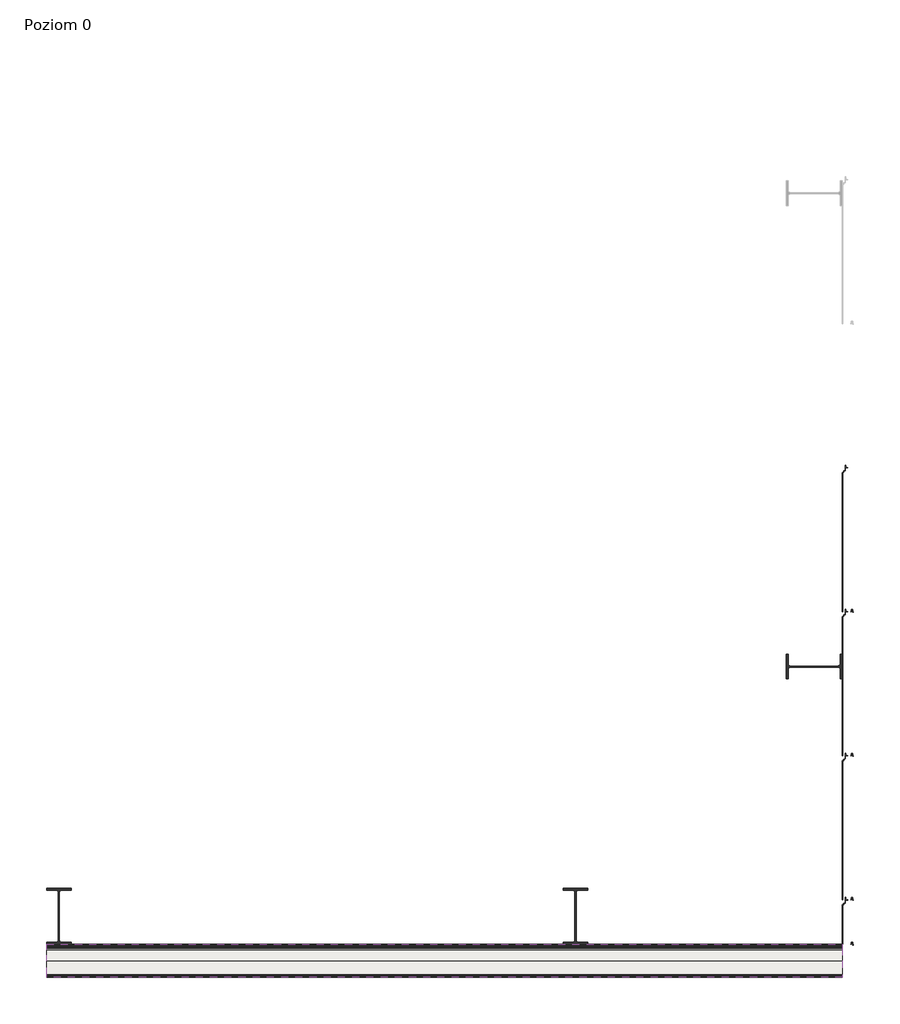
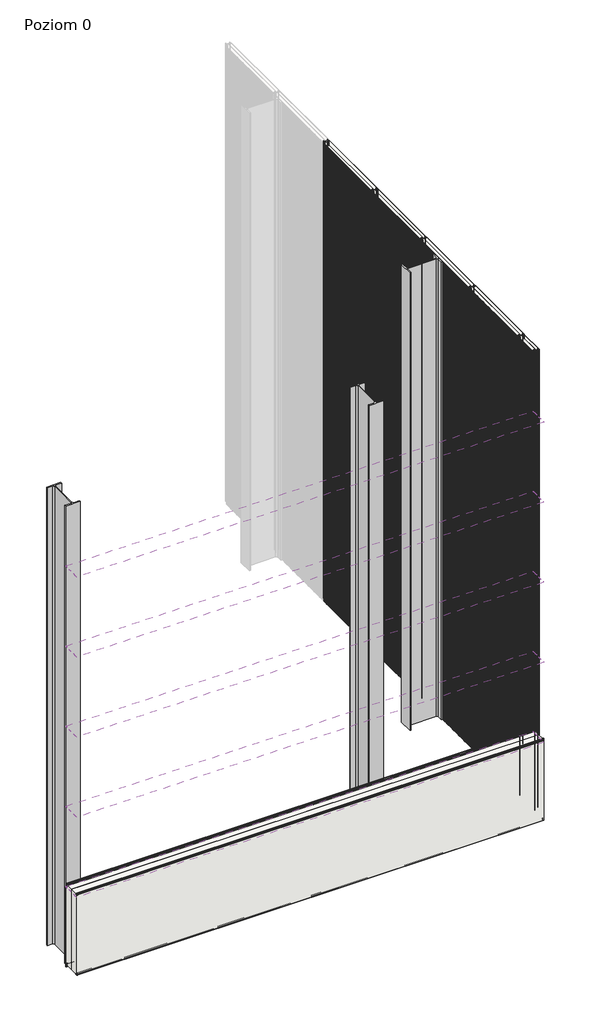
# One storey, part 1 of 2: 11 coverings, 3 columns.
"""IFC4 building model written with IfcOpenShell, lengths in millimetres."""

from ifc_helpers import new_model, si_unit, point, frame, frame_2d, origin, origin_with_axes, place, context, project, spatial, polyline, circle_curve, trimmed, segment, composite_curve, outline, extrude, transform, mapped, element, save
from ifc_brep_helpers import plane_surface, cylinder_surface, revolved_surface, advanced_brep
from components import standard1_standard_8d04f7a0, covering_1de69429, covering_f1df908d, covering_b233c857, covering_faf521a6

model = new_model("IFC4")

# Units and contexts
model_context = context("Model", 3, world=origin())
ifc_project = project(units=[si_unit("LENGTHUNIT", "METRE", prefix="MILLI")], contexts=[model_context])

# Site, building, storey
site = spatial("IfcSite", under=ifc_project)
building = spatial("IfcBuilding", under=site)
storey = spatial("IfcBuildingStorey", under=building, Name="Poziom 0", Elevation=0.0)

# Columns
placement = place(None, origin())
standard1_standard_shape = standard1_standard_8d04f7a0(model_context)
element("IfcColumn", 1, ObjectType="Standard1 : Standard", at=placement, inside=storey, context=model_context, shape_type="MappedRepresentation", body=[
    mapped(standard1_standard_shape, transform((-652.7962443, -7493.6992704, 0.0), x_axis=(0.0, 1.0, 0.0), y_axis=(-1.0, 0.0, 0.0), z_axis=(0.0, 0.0, 1.0))),
])
element("IfcColumn", 2, ObjectType="Standard1 : Standard", at=placement, inside=storey, context=model_context, shape_type="MappedRepresentation", body=[
    mapped(standard1_standard_shape, transform((-6157.3962443, -9313.0059697, 0.0), x_axis=(1.0, 0.0, 0.0), y_axis=(0.0, 1.0, 0.0), z_axis=(0.0, 0.0, 1.0))),
])
element("IfcColumn", 3, ObjectType="Standard1 : Standard", at=placement, inside=storey, context=model_context, shape_type="MappedRepresentation", body=[
    mapped(standard1_standard_shape, transform((-2391.8962443, -9313.0059697, 0.0), x_axis=(1.0, 0.0, 0.0), y_axis=(0.0, 1.0, 0.0), z_axis=(0.0, 0.0, 1.0))),
])

# Coverings
element("IfcCovering", 4, ObjectType="Wall sandwich panel SPW-H CORE WOOL (single sheet) : -", at=placement, inside=storey, context=model_context, shape_type="SolidModel", body=[
    advanced_brep(
    [(-367.8962443, -6043.6992704, 0.0), (-367.8962443, -6045.316623, 0.0), (-370.9458145, -6045.4231216, 0.0), (-371.4485065, -6031.0286267, 0.0), (-381.4386085, -6030.9414619, 0.0), (-382.0051251, -6041.7516046, 0.0), (-383.0037548, -6042.6992704, 0.0), (-406.8962443, -6042.6992704, 0.0), (-406.8962443, -4994.6992704, 0.0), (-382.3124747, -4994.6992704, 0.0), (-378.8172713, -4991.3824462, 0.0), (-378.256236, -4980.6772545, 0.0), (-374.2601953, -4980.7121274, 0.0), (-373.6947214, -4996.9051812, 0.0), (-371.1962443, -4999.3179325, 0.0), (-369.3962443, -4999.3179325, 0.0), (-367.8962443, -5000.8179325, 0.0), (-367.8962443, -5001.8361418, 0.0), (-367.8962443, -6045.316623, 6000.0), (-367.8962443, -6043.6992704, 6000.0), (-367.8962443, -5001.8361418, 6000.0), (-367.8962443, -5000.8179325, 6000.0), (-369.3962443, -4999.3179325, 6000.0), (-371.1962443, -4999.3179325, 6000.0), (-373.6947214, -4996.9051812, 6000.0), (-374.2601953, -4980.7121274, 6000.0), (-378.256236, -4980.6772545, 6000.0), (-378.8172713, -4991.3824462, 6000.0), (-382.3124747, -4994.6992704, 6000.0), (-406.8962443, -4994.6992704, 6000.0), (-406.8962443, -6042.6992704, 6000.0), (-383.0037548, -6042.6992704, 6000.0), (-382.0051251, -6041.7516046, 6000.0), (-381.4386085, -6030.9414619, 6000.0), (-371.4485065, -6031.0286267, 6000.0), (-370.9458145, -6045.4231216, 6000.0)],
    [
        (0, 1),
        (1, 2, circle_curve(frame((-369.422889, -6045.316623, 0.0), z_axis=(0.0, 0.0, -1.0), x_axis=(0.0, -1.0, 0.0)), 1.5266447)),
        (2, 3),
        (3, 4, circle_curve(frame((-376.4454604, -6031.2031329, 0.0), z_axis=(0.0, 0.0, 1.0), x_axis=(0.0, -1.0, 0.0)), 5.0)),
        (4, 5),
        (5, 6, circle_curve(frame((-383.0037548, -6041.6992704, 0.0), z_axis=(0.0, 0.0, -1.0), x_axis=(0.0, -1.0, 0.0)), 1.0)),
        (6, 7),
        (7, 8),
        (8, 9),
        (9, 10, circle_curve(frame((-382.3124747, -4991.1992704, 0.0), z_axis=(0.0, 0.0, 1.0), x_axis=(0.0, -1.0, 0.0)), 3.5)),
        (10, 11),
        (11, 12, circle_curve(frame((-376.2589769, -4980.7819264, 0.0), z_axis=(0.0, 0.0, -1.0), x_axis=(0.0, -1.0, 0.0)), 2.0)),
        (12, 13),
        (13, 14, circle_curve(frame((-371.1962443, -4996.8179325, 0.0), z_axis=(0.0, 0.0, 1.0), x_axis=(0.0, -1.0, 0.0)), 2.5)),
        (14, 15),
        (15, 16, circle_curve(frame((-369.3962443, -5000.8179325, 0.0), z_axis=(0.0, 0.0, -1.0), x_axis=(0.0, -1.0, 0.0)), 1.5)),
        (16, 17),
        (17, 0),
        (18, 19),
        (19, 20),
        (20, 21),
        (21, 22, circle_curve(frame((-369.3962443, -5000.8179325, 6000.0), z_axis=(0.0, 0.0, 1.0), x_axis=(0.0, -1.0, 0.0)), 1.5)),
        (22, 23),
        (23, 24, circle_curve(frame((-371.1962443, -4996.8179325, 6000.0), z_axis=(0.0, 0.0, -1.0), x_axis=(0.0, -1.0, 0.0)), 2.5)),
        (24, 25),
        (25, 26, circle_curve(frame((-376.2589769, -4980.7819264, 6000.0), z_axis=(0.0, 0.0, 1.0), x_axis=(0.0, -1.0, 0.0)), 2.0)),
        (26, 27),
        (27, 28, circle_curve(frame((-382.3124747, -4991.1992704, 6000.0), z_axis=(0.0, 0.0, -1.0), x_axis=(0.0, -1.0, 0.0)), 3.5)),
        (28, 29),
        (29, 30),
        (30, 31),
        (31, 32, circle_curve(frame((-383.0037548, -6041.6992704, 6000.0), z_axis=(0.0, 0.0, 1.0), x_axis=(0.0, -1.0, 0.0)), 1.0)),
        (32, 33),
        (33, 34, circle_curve(frame((-376.4454604, -6031.2031329, 6000.0), z_axis=(0.0, 0.0, -1.0), x_axis=(0.0, -1.0, 0.0)), 5.0)),
        (34, 35),
        (35, 18, circle_curve(frame((-369.422889, -6045.316623, 6000.0), z_axis=(0.0, 0.0, 1.0), x_axis=(0.0, -1.0, 0.0)), 1.5266447)),
        (16, 21),
        (18, 1),
        (7, 30),
        (29, 8),
        (15, 22),
        (14, 23),
        (13, 24),
        (12, 25),
        (11, 26),
        (10, 27),
        (9, 28),
        (6, 31),
        (5, 32),
        (4, 33),
        (3, 34),
        (2, 35),
    ],
    [
        plane_surface(frame((-367.8962443, -6103.6992704, 0.0), z_axis=(0.0, 0.0, -1.0), x_axis=(0.0, -1.0, 0.0))),
        plane_surface(frame((-367.8962443, -6103.6992704, 6000.0), z_axis=(0.0, 0.0, 1.0), x_axis=(0.0, 1.0, 0.0))),
        plane_surface(frame((-367.8962443, -4933.6992704, 0.0), z_axis=(1.0, 0.0, 0.0), x_axis=(0.0, 0.0, 1.0))),
        plane_surface(frame((-406.8962443, -6103.6992704, 0.0), z_axis=(-1.0, 0.0, 0.0), x_axis=(0.0, 0.0, 1.0))),
        cylinder_surface(frame((-369.3962443, -5000.8179325, 0.0), z_axis=(0.0, 0.0, 1.0), x_axis=(0.0, -1.0, 0.0)), 1.5),
        plane_surface(frame((-369.3962443, -4999.3179325, 0.0), z_axis=(0.0, 1.0, 0.0), x_axis=(0.0, 0.0, 1.0))),
        revolved_surface(polyline([(-371.1962443, -4999.3179325, 0.0), (-371.1962443, -4999.3179325, 6000.0)]), (-371.1962443, -4996.8179325, 0.0), (0.0, 0.0, -1.0)),
        plane_surface(frame((-373.6947214, -4996.9051812, 0.0), z_axis=(0.9993908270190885, 0.03489949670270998, 0.0), x_axis=(0.0, 0.0, 1.0))),
        cylinder_surface(frame((-376.2589769, -4980.7819264, 0.0), z_axis=(0.0, 0.0, 1.0), x_axis=(0.0, -1.0, 0.0)), 2.0),
        plane_surface(frame((-378.256236, -4980.6772545, 0.0), z_axis=(-0.9986295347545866, 0.052335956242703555, 0.0), x_axis=(0.0, 0.0, 1.0))),
        revolved_surface(polyline([(-382.3124747, -4994.6992704, 0.0), (-382.3124747, -4994.6992704, 6000.0)]), (-382.3124747, -4991.1992704, 0.0), (0.0, 0.0, -1.0)),
        plane_surface(frame((-382.3124747, -4994.6992704, 0.0), z_axis=(0.0, 1.0, 0.0), x_axis=(0.0, 0.0, 1.0))),
        plane_surface(frame((-417.3935789, -6042.6992704, 0.0), z_axis=(0.0, -1.0, 0.0), x_axis=(0.0, 0.0, 1.0))),
        cylinder_surface(frame((-383.0037548, -6041.6992704, 0.0), z_axis=(0.0, 0.0, 1.0), x_axis=(0.0, -1.0, 0.0)), 1.0),
        plane_surface(frame((-382.0051251, -6041.7516046, 0.0), z_axis=(0.9986296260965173, -0.052334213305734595, 0.0), x_axis=(0.0, 0.0, 1.0))),
        revolved_surface(polyline([(-376.4454604, -6036.2031329, 0.0), (-376.4454604, -6036.2031329, 6000.0)]), (-376.4454604, -6031.2031329, 0.0), (0.0, 0.0, -1.0)),
        plane_surface(frame((-371.4485065, -6031.0286267, 0.0), z_axis=(-0.9993907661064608, -0.034901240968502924, 0.0), x_axis=(0.0, 0.0, 1.0))),
        cylinder_surface(frame((-369.422889, -6045.316623, 0.0), z_axis=(0.0, 0.0, 1.0), x_axis=(0.0, -1.0, 0.0)), 1.5266447),
    ],
    [
        (0, [[1, 2, 3, 4, 5, 6, 7, 8, 9, 10, 11, 12, 13, 14, 15, 16, 17, 18]]),
        (1, [[19, 20, 21, 22, 23, 24, 25, 26, 27, 28, 29, 30, 31, 32, 33, 34, 35, 36]]),
        (2, [[-1, -18, -17, 37, -21, -20, -19, 38]]),
        (3, [[39, -30, 40, -8]]),
        (4, [[41, -22, -37, -16]]),
        (5, [[-41, -15, 42, -23]]),
        (6, [[-42, -14, 43, -24]]),
        (7, [[-43, -13, 44, -25]]),
        (8, [[-44, -12, 45, -26]]),
        (9, [[-45, -11, 46, -27]]),
        (10, [[-46, -10, 47, -28]]),
        (11, [[-47, -9, -40, -29]]),
        (12, [[48, -31, -39, -7]]),
        (13, [[-48, -6, 49, -32]]),
        (14, [[-49, -5, 50, -33]]),
        (15, [[-50, -4, 51, -34]]),
        (16, [[-51, -3, 52, -35]]),
        (17, [[-52, -2, -38, -36]]),
    ],
),
    advanced_brep(
    [(-445.8962443, -6072.1135663, 0.0), (-445.8962443, -6043.6992704, 0.0), (-445.8962443, -5032.1469887, 0.0), (-441.8962443, -5028.1469887, 0.0), (-438.9040636, -5028.1469887, 0.0), (-435.8878709, -5025.1307959, 0.0), (-435.8878709, -5019.6134492, 0.0), (-434.6538722, -5018.1405309, 0.0), (-428.3752998, -5017.0300854, 0.0), (-425.8962443, -5014.0756621, 0.0), (-425.8962443, -4977.5756621, 0.0), (-421.8989852, -4977.4709902, 0.0), (-421.1699167, -4991.3824462, 0.0), (-417.6747133, -4994.6992704, 0.0), (-406.8962443, -4994.6992704, 0.0), (-406.8962443, -6042.6992704, 0.0), (-417.3935789, -6042.6992704, 0.0), (-418.1583769, -6041.9734914, 0.0), (-418.9024885, -6027.7702528, 0.0), (-428.8956408, -6028.0317582, 0.0), (-428.8956408, -6039.0317582, 0.0), (-429.7485165, -6040.6700474, 0.0), (-437.4032804, -6046.0297717, 0.0), (-438.8958129, -6048.8967778, 0.0), (-438.8958129, -6072.1136274, 0.0), (-445.8962443, -6043.6992704, 6000.0), (-445.8962443, -6072.1135663, 6000.0), (-438.8962443, -6072.1136274, 6000.0), (-438.8958129, -6048.8967778, 6000.0), (-437.4032804, -6046.0297717, 6000.0), (-429.7485165, -6040.6700474, 6000.0), (-428.8956408, -6039.0317582, 6000.0), (-428.8956408, -6028.0317582, 6000.0), (-418.9024885, -6027.7702528, 6000.0), (-418.1583769, -6041.9734914, 6000.0), (-417.3935789, -6042.6992704, 6000.0), (-406.8962443, -6042.6992704, 6000.0), (-406.8962443, -4994.6992704, 6000.0), (-417.6747133, -4994.6992704, 6000.0), (-421.1699167, -4991.3824462, 6000.0), (-421.8989852, -4977.4709902, 6000.0), (-425.8962443, -4977.5756621, 6000.0), (-425.8962443, -5014.0756621, 6000.0), (-428.3752998, -5017.0300854, 6000.0), (-434.6538722, -5018.1405309, 6000.0), (-435.8878709, -5019.6134492, 6000.0), (-435.8878709, -5025.1307959, 6000.0), (-438.9040636, -5028.1469887, 6000.0), (-441.8962443, -5028.1469887, 6000.0), (-445.8962443, -5032.1469887, 6000.0)],
    [
        (0, 1),
        (1, 2),
        (2, 3, circle_curve(frame((-441.8962443, -5032.1469887, 0.0), z_axis=(0.0, 0.0, -1.0), x_axis=(0.0, -1.0, 0.0)), 4.0)),
        (3, 4),
        (4, 5, circle_curve(frame((-438.9040636, -5025.1307959, 0.0), z_axis=(0.0, 0.0, 1.0), x_axis=(0.0, -1.0, 0.0)), 3.0161927)),
        (5, 6),
        (6, 7, circle_curve(frame((-434.3918235, -5019.6134492, 0.0), z_axis=(0.0, 0.0, -1.0), x_axis=(0.0, -1.0, 0.0)), 1.4960474)),
        (7, 8),
        (8, 9, circle_curve(frame((-428.8962443, -5014.0756621, 0.0), z_axis=(0.0, 0.0, 1.0), x_axis=(0.0, -1.0, 0.0)), 3.0)),
        (9, 10),
        (10, 11, circle_curve(frame((-423.8962443, -4977.5756621, 0.0), z_axis=(0.0, 0.0, -1.0), x_axis=(0.0, -1.0, 0.0)), 2.0)),
        (11, 12),
        (12, 13, circle_curve(frame((-417.6747133, -4991.1992704, 0.0), z_axis=(0.0, 0.0, 1.0), x_axis=(0.0, -1.0, 0.0)), 3.5)),
        (13, 14),
        (14, 15),
        (15, 16),
        (16, 17, circle_curve(frame((-417.3935789, -6041.9334235, 0.0), z_axis=(0.0, 0.0, -1.0), x_axis=(0.0, -1.0, 0.0)), 0.7658469)),
        (17, 18),
        (18, 19, circle_curve(frame((-423.8956408, -6028.0318455, 0.0), z_axis=(0.0, 0.0, 1.0), x_axis=(0.0, -1.0, 0.0)), 5.0)),
        (19, 20),
        (20, 21, circle_curve(frame((-430.8956408, -6039.0317233, 0.0), z_axis=(0.0, 0.0, -1.0), x_axis=(0.0, -1.0, 0.0)), 2.0)),
        (21, 22),
        (22, 23, circle_curve(frame((-435.3958129, -6048.8968389, 0.0), z_axis=(0.0, 0.0, 1.0), x_axis=(0.0, -1.0, 0.0)), 3.5)),
        (23, 24),
        (24, 0, circle_curve(frame((-442.3962443, -6072.1135663, 0.0), z_axis=(0.0, 0.0, -1.0), x_axis=(0.0, -1.0, 0.0)), 3.5)),
        (25, 26),
        (26, 27, circle_curve(frame((-442.3962443, -6072.1135663, 6000.0), z_axis=(0.0, 0.0, 1.0), x_axis=(0.0, -1.0, 0.0)), 3.5)),
        (27, 28),
        (28, 29, circle_curve(frame((-435.3958129, -6048.8968389, 6000.0), z_axis=(0.0, 0.0, -1.0), x_axis=(0.0, -1.0, 0.0)), 3.5)),
        (29, 30),
        (30, 31, circle_curve(frame((-430.8956408, -6039.0317233, 6000.0), z_axis=(0.0, 0.0, 1.0), x_axis=(0.0, -1.0, 0.0)), 2.0)),
        (31, 32),
        (32, 33, circle_curve(frame((-423.8956408, -6028.0318455, 6000.0), z_axis=(0.0, 0.0, -1.0), x_axis=(0.0, -1.0, 0.0)), 5.0)),
        (33, 34),
        (34, 35, circle_curve(frame((-417.3935789, -6041.9334235, 6000.0), z_axis=(0.0, 0.0, 1.0), x_axis=(0.0, -1.0, 0.0)), 0.7658469)),
        (35, 36),
        (36, 37),
        (37, 38),
        (38, 39, circle_curve(frame((-417.6747133, -4991.1992704, 6000.0), z_axis=(0.0, 0.0, -1.0), x_axis=(0.0, -1.0, 0.0)), 3.5)),
        (39, 40),
        (40, 41, circle_curve(frame((-423.8962443, -4977.5756621, 6000.0), z_axis=(0.0, 0.0, 1.0), x_axis=(0.0, -1.0, 0.0)), 2.0)),
        (41, 42),
        (42, 43, circle_curve(frame((-428.8962443, -5014.0756621, 6000.0), z_axis=(0.0, 0.0, -1.0), x_axis=(0.0, -1.0, 0.0)), 3.0)),
        (43, 44),
        (44, 45, circle_curve(frame((-434.3918235, -5019.6134492, 6000.0), z_axis=(0.0, 0.0, 1.0), x_axis=(0.0, -1.0, 0.0)), 1.4960474)),
        (45, 46),
        (46, 47, circle_curve(frame((-438.9040636, -5025.1307959, 6000.0), z_axis=(0.0, 0.0, -1.0), x_axis=(0.0, -1.0, 0.0)), 3.0161927)),
        (47, 48),
        (48, 49, circle_curve(frame((-441.8962443, -5032.1469887, 6000.0), z_axis=(0.0, 0.0, 1.0), x_axis=(0.0, -1.0, 0.0)), 4.0)),
        (49, 25),
        (36, 15),
        (14, 37),
        (0, 26),
        (49, 2),
        (13, 38),
        (12, 39),
        (11, 40),
        (10, 41),
        (9, 42),
        (8, 43),
        (7, 44),
        (6, 45),
        (5, 46),
        (4, 47),
        (3, 48),
        (24, 27),
        (23, 28),
        (22, 29),
        (21, 30),
        (20, 31),
        (19, 32),
        (18, 33),
        (17, 34),
        (16, 35),
    ],
    [
        plane_surface(frame((-406.8962443, -6103.6992704, 0.0), z_axis=(0.0, 0.0, -1.0), x_axis=(0.0, -1.0, 0.0))),
        plane_surface(frame((-406.8962443, -6103.6992704, 6000.0), z_axis=(0.0, 0.0, 1.0), x_axis=(0.0, 1.0, 0.0))),
        plane_surface(frame((-406.8962443, -4933.6992704, 0.0), z_axis=(1.0, 0.0, 0.0), x_axis=(0.0, 0.0, 1.0))),
        plane_surface(frame((-445.8962443, -6103.6992704, 0.0), z_axis=(-1.0, 0.0, 0.0), x_axis=(0.0, 0.0, 1.0))),
        plane_surface(frame((-382.3124747, -4994.6992704, 0.0), z_axis=(0.0, 1.0, 0.0), x_axis=(0.0, 0.0, 1.0))),
        revolved_surface(polyline([(-417.6747133, -4994.6992704, 0.0), (-417.6747133, -4994.6992704, 6000.0)]), (-417.6747133, -4991.1992704, 0.0), (0.0, 0.0, -1.0)),
        plane_surface(frame((-421.1699167, -4991.3824462, 0.0), z_axis=(0.9986295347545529, 0.05233595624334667, 0.0), x_axis=(0.0, 0.0, 1.0))),
        cylinder_surface(frame((-423.8962443, -4977.5756621, 0.0), z_axis=(0.0, 0.0, 1.0), x_axis=(0.0, -1.0, 0.0)), 2.0),
        plane_surface(frame((-425.8962443, -4977.5756621, 0.0), z_axis=(-1.0, 0.0, 0.0), x_axis=(0.0, 0.0, 1.0))),
        revolved_surface(polyline([(-428.8962443, -5017.0756621, 0.0), (-428.8962443, -5017.0756621, 6000.0)]), (-428.8962443, -5014.0756621, 0.0), (0.0, 0.0, -1.0)),
        plane_surface(frame((-428.3752998, -5017.0300854, 0.0), z_axis=(-0.17415980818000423, 0.9847174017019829, 0.0), x_axis=(0.0, 0.0, 1.0))),
        cylinder_surface(frame((-434.3918235, -5019.6134492, 0.0), z_axis=(0.0, 0.0, 1.0), x_axis=(0.0, -1.0, 0.0)), 1.4960474),
        plane_surface(frame((-435.8878709, -5019.6134492, 0.0), z_axis=(-1.0, 0.0, 0.0), x_axis=(0.0, 0.0, 1.0))),
        revolved_surface(polyline([(-438.9040636, -5028.1469885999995, 0.0), (-438.9040636, -5028.1469885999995, 6000.0)]), (-438.9040636, -5025.1307959, 0.0), (0.0, 0.0, -1.0)),
        plane_surface(frame((-438.9040636, -5028.1469887, 0.0), z_axis=(0.0, 1.0, 0.0), x_axis=(0.0, 0.0, 1.0))),
        cylinder_surface(frame((-441.8962443, -5032.1469887, 0.0), z_axis=(0.0, 0.0, 1.0), x_axis=(0.0, -1.0, 0.0)), 4.0),
        cylinder_surface(frame((-442.3962443, -6072.1135663, 0.0), z_axis=(0.0, 0.0, 1.0), x_axis=(0.0, -1.0, 0.0)), 3.5),
        plane_surface(frame((-438.8958129, -6072.1136274, 0.0), z_axis=(1.0, 0.0, 0.0), x_axis=(0.0, 0.0, 1.0))),
        revolved_surface(polyline([(-435.3958129, -6052.3968389, 0.0), (-435.3958129, -6052.3968389, 6000.0)]), (-435.3958129, -6048.8968389, 0.0), (0.0, 0.0, -1.0)),
        plane_surface(frame((-437.4032804, -6046.0297717, 0.0), z_axis=(0.5735621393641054, -0.8191620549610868, 0.0), x_axis=(0.0, 0.0, 1.0))),
        cylinder_surface(frame((-430.8956408, -6039.0317233, 0.0), z_axis=(0.0, 0.0, 1.0), x_axis=(0.0, -1.0, 0.0)), 2.0),
        plane_surface(frame((-428.8956408, -6039.0317582, 0.0), z_axis=(1.0, 0.0, 0.0), x_axis=(0.0, 0.0, 1.0))),
        revolved_surface(polyline([(-423.8956408, -6033.0318455, 0.0), (-423.8956408, -6033.0318455, 6000.0)]), (-423.8956408, -6028.0318455, 0.0), (0.0, 0.0, -1.0)),
        plane_surface(frame((-418.9024885, -6027.7702528, 0.0), z_axis=(-0.9986304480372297, -0.05231852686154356, 0.0), x_axis=(0.0, 0.0, 1.0))),
        cylinder_surface(frame((-417.3935789, -6041.9334235, 0.0), z_axis=(0.0, 0.0, 1.0), x_axis=(0.0, -1.0, 0.0)), 0.7658469),
        plane_surface(frame((-417.3935789, -6042.6992704, 0.0), z_axis=(0.0, -1.0, 0.0), x_axis=(0.0, 0.0, 1.0))),
    ],
    [
        (0, [[1, 2, 3, 4, 5, 6, 7, 8, 9, 10, 11, 12, 13, 14, 15, 16, 17, 18, 19, 20, 21, 22, 23, 24, 25]]),
        (1, [[26, 27, 28, 29, 30, 31, 32, 33, 34, 35, 36, 37, 38, 39, 40, 41, 42, 43, 44, 45, 46, 47, 48, 49, 50]]),
        (2, [[51, -15, 52, -37]]),
        (3, [[-1, 53, -26, -50, 54, -2]]),
        (4, [[55, -38, -52, -14]]),
        (5, [[-55, -13, 56, -39]]),
        (6, [[-56, -12, 57, -40]]),
        (7, [[-57, -11, 58, -41]]),
        (8, [[-58, -10, 59, -42]]),
        (9, [[-59, -9, 60, -43]]),
        (10, [[-60, -8, 61, -44]]),
        (11, [[-61, -7, 62, -45]]),
        (12, [[-62, -6, 63, -46]]),
        (13, [[-63, -5, 64, -47]]),
        (14, [[-64, -4, 65, -48]]),
        (15, [[-65, -3, -54, -49]]),
        (16, [[66, -27, -53, -25]]),
        (17, [[-66, -24, 67, -28]]),
        (18, [[-67, -23, 68, -29]]),
        (19, [[-68, -22, 69, -30]]),
        (20, [[-69, -21, 70, -31]]),
        (21, [[-70, -20, 71, -32]]),
        (22, [[-71, -19, 72, -33]]),
        (23, [[-72, -18, 73, -34]]),
        (24, [[-73, -17, 74, -35]]),
        (25, [[-74, -16, -51, -36]]),
    ],
),
    extrude(outline(composite_curve([segment(polyline([(-367.8962443, -6043.6992704), (-367.8962443, -5000.8179325)]), True, "CONTINUOUS"), segment(trimmed(circle_curve(frame_2d((-369.3962443, -5000.8179325)), 1.5), [point((-367.8962443, -5000.8179325))], [point((-369.3962443, -4999.3179325))], True, "CARTESIAN"), True, "CONTINUOUS"), segment(polyline([(-369.3962443, -4999.3179325), (-371.1962443, -4999.3179325)]), True, "CONTINUOUS"), segment(trimmed(circle_curve(frame_2d((-371.1962443, -4996.8179325)), 2.5), [point((-371.1962443, -4999.3179325))], [point((-373.6947214, -4996.9051812))], False, "CARTESIAN"), True, "CONTINUOUS"), segment(polyline([(-373.6947214, -4996.9051812), (-374.2601953, -4980.7121274)]), True, "CONTINUOUS"), segment(trimmed(circle_curve(frame_2d((-376.2589769, -4980.7819264)), 2.0), [point((-374.2601953, -4980.7121274))], [point((-378.256236, -4980.6772545))], True, "CARTESIAN"), True, "CONTINUOUS"), segment(polyline([(-378.256236, -4980.6772545), (-378.8172713, -4991.3824462)]), True, "CONTINUOUS"), segment(trimmed(circle_curve(frame_2d((-382.3124747, -4991.1992704)), 3.5), [point((-378.8172713, -4991.3824462))], [point((-382.3124747, -4994.6992704))], False, "CARTESIAN"), True, "CONTINUOUS"), segment(polyline([(-382.3124747, -4994.6992704), (-385.0024747, -4994.6992704), (-385.0024747, -4993.6992704), (-382.3124747, -4993.6992704)]), True, "CONTINUOUS"), segment(trimmed(circle_curve(frame_2d((-382.3124747, -4991.1992704)), 2.5), [point((-382.3124747, -4993.6992704))], [point((-379.8159009, -4991.3301102))], True, "CARTESIAN"), True, "CONTINUOUS"), segment(polyline([(-379.8159009, -4991.3301102), (-379.2548655, -4980.6249185)]), True, "CONTINUOUS"), segment(trimmed(circle_curve(frame_2d((-376.2589769, -4980.7819264)), 3.0), [point((-379.2548655, -4980.6249185))], [point((-373.2608045, -4980.6772279))], False, "CARTESIAN"), True, "CONTINUOUS"), segment(polyline([(-373.2608045, -4980.6772279), (-372.6953306, -4996.8702817)]), True, "CONTINUOUS"), segment(trimmed(circle_curve(frame_2d((-371.1962443, -4996.8179325)), 1.5), [point((-372.6953306, -4996.8702817))], [point((-371.1962443, -4998.3179325))], True, "CARTESIAN"), True, "CONTINUOUS"), segment(polyline([(-371.1962443, -4998.3179325), (-369.3962443, -4998.3179325)]), True, "CONTINUOUS"), segment(trimmed(circle_curve(frame_2d((-369.3962443, -5000.8179325)), 2.5), [point((-369.3962443, -4998.3179325))], [point((-366.8962443, -5000.8179325))], False, "CARTESIAN"), True, "CONTINUOUS"), segment(polyline([(-366.8962443, -5000.8179325), (-366.8962443, -6043.6992704), (-367.8962443, -6043.6992704)]), True, "CONTINUOUS")], self_intersect=False)), origin_with_axes(), (0.0, 0.0, 1.0), 6000.0),
    advanced_brep(
    [(-428.9113317, -6039.2817582, 0.0), (-428.8954488, -6028.0317582, 0.0), (-418.9022965, -6027.7702528, 0.0), (-418.1581849, -6041.9734914, 0.0), (-417.3933869, -6042.6992704, 0.0), (-408.3933869, -6042.6992704, 0.0), (-408.3933869, -6043.6992704, 0.0), (-417.3933869, -6043.6992704, 0.0), (-419.1568154, -6042.02581, 0.0), (-419.900927, -6027.8225714, 0.0), (-427.8954487, -6028.032434, 0.0), (-427.9114114, -6039.3389286, 0.0), (-429.1749543, -6041.4892095, 0.0), (-436.8297183, -6046.8489338, 0.0), (-437.8958129, -6048.8967953, 0.0), (-437.8962181, -6072.1136449, 0.0), (-446.8962443, -6072.1135663, 0.0), (-446.8962443, -6043.6992704, 0.0), (-445.8962443, -6043.6992704, 0.0), (-445.8962443, -6072.1135663, 0.0), (-438.8962443, -6072.1136274, 0.0), (-438.8958129, -6048.8967778, 0.0), (-437.4032804, -6046.0297717, 0.0), (-429.7485165, -6040.6700474, 0.0), (-428.9113317, -6039.2817582, 6000.0), (-429.7485165, -6040.6700474, 6000.0), (-437.4032804, -6046.0297717, 6000.0), (-438.8958129, -6048.8967778, 6000.0), (-438.8962181, -6072.1136274, 6000.0), (-445.8962443, -6072.1135663, 6000.0), (-445.8962443, -6043.6992704, 6000.0), (-446.8962443, -6043.6992704, 6000.0), (-446.8962443, -6072.1135663, 6000.0), (-437.8962443, -6072.1136449, 6000.0), (-437.8958129, -6048.8967953, 6000.0), (-436.8297183, -6046.8489338, 6000.0), (-429.1749543, -6041.4892095, 6000.0), (-427.9114114, -6039.3389286, 6000.0), (-427.8954487, -6028.032434, 6000.0), (-419.900927, -6027.8225714, 6000.0), (-419.1568154, -6042.02581, 6000.0), (-417.3933869, -6043.6992704, 6000.0), (-408.3933869, -6043.6992704, 6000.0), (-408.3933869, -6042.6992704, 6000.0), (-417.3933869, -6042.6992704, 6000.0), (-418.1581849, -6041.9734914, 6000.0), (-418.9022965, -6027.7702528, 6000.0), (-428.8954488, -6028.0317582, 6000.0)],
    [
        (0, 1),
        (1, 2, circle_curve(frame((-423.8954488, -6028.0318455, 0.0), z_axis=(0.0, 0.0, -1.0), x_axis=(0.0, 1.0, 0.0)), 5.0)),
        (2, 3),
        (3, 4, circle_curve(frame((-417.3933869, -6041.9334235, 0.0), z_axis=(0.0, 0.0, 1.0), x_axis=(0.0, 1.0, 0.0)), 0.7658469)),
        (4, 5),
        (5, 6),
        (6, 7),
        (7, 8, circle_curve(frame((-417.3933869, -6041.9334235, 0.0), z_axis=(0.0, 0.0, -1.0), x_axis=(0.0, 1.0, 0.0)), 1.7658469)),
        (8, 9),
        (9, 10, circle_curve(frame((-423.8954488, -6028.0318455, 0.0), z_axis=(0.0, 0.0, 1.0), x_axis=(0.0, 1.0, 0.0)), 4.0)),
        (10, 11),
        (11, 12, circle_curve(frame((-430.8956408, -6039.0317233, 0.0), z_axis=(0.0, 0.0, -1.0), x_axis=(0.0, 1.0, 0.0)), 3.0)),
        (12, 13),
        (13, 14, circle_curve(frame((-435.3958129, -6048.8968389, 0.0), z_axis=(0.0, 0.0, 1.0), x_axis=(0.0, 1.0, 0.0)), 2.5)),
        (14, 15),
        (15, 16, circle_curve(frame((-442.3962443, -6072.1135663, 0.0), z_axis=(0.0, 0.0, -1.0), x_axis=(0.0, 1.0, 0.0)), 4.5)),
        (16, 17),
        (17, 18),
        (18, 19),
        (19, 20, circle_curve(frame((-442.3962443, -6072.1135663, 0.0), z_axis=(0.0, 0.0, 1.0), x_axis=(0.0, 1.0, 0.0)), 3.5)),
        (20, 21),
        (21, 22, circle_curve(frame((-435.3958129, -6048.8968389, 0.0), z_axis=(0.0, 0.0, -1.0), x_axis=(0.0, 1.0, 0.0)), 3.5)),
        (22, 23),
        (23, 0, circle_curve(frame((-430.8956408, -6039.0317233, 0.0), z_axis=(0.0, 0.0, 1.0), x_axis=(0.0, 1.0, 0.0)), 2.0)),
        (24, 25, circle_curve(frame((-430.8956408, -6039.0317233, 6000.0), z_axis=(0.0, 0.0, -1.0), x_axis=(0.0, 1.0, 0.0)), 2.0)),
        (25, 26),
        (26, 27, circle_curve(frame((-435.3958129, -6048.8968389, 6000.0), z_axis=(0.0, 0.0, 1.0), x_axis=(0.0, 1.0, 0.0)), 3.5)),
        (27, 28),
        (28, 29, circle_curve(frame((-442.3962443, -6072.1135663, 6000.0), z_axis=(0.0, 0.0, -1.0), x_axis=(0.0, 1.0, 0.0)), 3.5)),
        (29, 30),
        (30, 31),
        (31, 32),
        (32, 33, circle_curve(frame((-442.3962443, -6072.1135663, 6000.0), z_axis=(0.0, 0.0, 1.0), x_axis=(0.0, 1.0, 0.0)), 4.5)),
        (33, 34),
        (34, 35, circle_curve(frame((-435.3958129, -6048.8968389, 6000.0), z_axis=(0.0, 0.0, -1.0), x_axis=(0.0, 1.0, 0.0)), 2.5)),
        (35, 36),
        (36, 37, circle_curve(frame((-430.8956408, -6039.0317233, 6000.0), z_axis=(0.0, 0.0, 1.0), x_axis=(0.0, 1.0, 0.0)), 3.0)),
        (37, 38),
        (38, 39, circle_curve(frame((-423.8954488, -6028.0318455, 6000.0), z_axis=(0.0, 0.0, -1.0), x_axis=(0.0, 1.0, 0.0)), 4.0)),
        (39, 40),
        (40, 41, circle_curve(frame((-417.3933869, -6041.9334235, 6000.0), z_axis=(0.0, 0.0, 1.0), x_axis=(0.0, 1.0, 0.0)), 1.7658469)),
        (41, 42),
        (42, 43),
        (43, 44),
        (44, 45, circle_curve(frame((-417.3933869, -6041.9334235, 6000.0), z_axis=(0.0, 0.0, -1.0), x_axis=(0.0, 1.0, 0.0)), 0.7658469)),
        (45, 46),
        (46, 47, circle_curve(frame((-423.8954488, -6028.0318455, 6000.0), z_axis=(0.0, 0.0, 1.0), x_axis=(0.0, 1.0, 0.0)), 5.0)),
        (47, 24),
        (0, 24),
        (47, 1),
        (46, 2),
        (45, 3),
        (44, 4),
        (43, 5),
        (42, 6),
        (41, 7),
        (40, 8),
        (39, 9),
        (38, 10),
        (37, 11),
        (36, 12),
        (35, 13),
        (34, 14),
        (33, 15),
        (32, 16),
        (31, 17),
        (30, 18),
        (29, 19),
        (28, 20),
        (27, 21),
        (26, 22),
        (25, 23),
    ],
    [
        plane_surface(frame((-446.8962443, -6043.6992704, 0.0), z_axis=(0.0, 0.0, -1.0), x_axis=(-1.0, 0.0, 0.0))),
        plane_surface(frame((-446.8962443, -6043.6992704, 6000.0), z_axis=(0.0, 0.0, 1.0), x_axis=(-1.0, 0.0, 0.0))),
        plane_surface(frame((-428.9113317, -6039.2817582, 0.0), z_axis=(-0.9999990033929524, 0.0014118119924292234, 0.0), x_axis=(0.0, 0.0, 1.0))),
        cylinder_surface(frame((-423.8954488, -6028.0318455, 0.0), z_axis=(0.0, 0.0, -1.0), x_axis=(0.0, 1.0, 0.0)), 5.0),
        plane_surface(frame((-418.9022965, -6027.7702528, 0.0), z_axis=(0.9986304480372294, 0.05231852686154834, 0.0), x_axis=(0.0, 0.0, 1.0))),
        revolved_surface(polyline([(-417.3933869, -6041.1675766, 6000.0), (-417.3933869, -6041.1675766, 0.0)]), (-417.3933869, -6041.9334235, 0.0), (0.0, 0.0, 1.0)),
        plane_surface(frame((-417.3933869, -6042.6992704, 0.0), z_axis=(0.0, 1.0, 0.0), x_axis=(0.0, 0.0, 1.0))),
        plane_surface(frame((-408.3933869, -6042.6992704, 0.0), z_axis=(1.0, 0.0, 0.0), x_axis=(0.0, 0.0, 1.0))),
        plane_surface(frame((-408.3933869, -6043.6992704, 0.0), z_axis=(0.0, -1.0, 0.0), x_axis=(0.0, 0.0, 1.0))),
        cylinder_surface(frame((-417.3933869, -6041.9334235, 0.0), z_axis=(0.0, 0.0, -1.0), x_axis=(0.0, 1.0, 0.0)), 1.7658469),
        plane_surface(frame((-419.1568154, -6042.02581, 0.0), z_axis=(-0.9986304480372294, -0.052318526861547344, 0.0), x_axis=(0.0, 0.0, 1.0))),
        revolved_surface(polyline([(-423.8954488, -6024.0318455, 6000.0), (-423.8954488, -6024.0318455, 0.0)]), (-423.8954488, -6028.0318455, 0.0), (0.0, 0.0, 1.0)),
        plane_surface(frame((-427.8954487, -6028.032434, 0.0), z_axis=(0.9999990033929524, -0.001411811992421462, 0.0), x_axis=(0.0, 0.0, 1.0))),
        cylinder_surface(frame((-430.8956408, -6039.0317233, 0.0), z_axis=(0.0, 0.0, -1.0), x_axis=(0.0, 1.0, 0.0)), 3.0),
        plane_surface(frame((-429.1749543, -6041.4892095, 0.0), z_axis=(0.5735621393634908, -0.8191620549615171, 0.0), x_axis=(0.0, 0.0, 1.0))),
        revolved_surface(polyline([(-435.3958129, -6046.3968389, 6000.0), (-435.3958129, -6046.3968389, 0.0)]), (-435.3958129, -6048.8968389, 0.0), (0.0, 0.0, 1.0)),
        plane_surface(frame((-437.8958129, -6048.8967953, 0.0), z_axis=(0.9999999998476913, -1.7453292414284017e-05, 0.0), x_axis=(0.0, 0.0, 1.0))),
        cylinder_surface(frame((-442.3962443, -6072.1135663, 0.0), z_axis=(0.0, 0.0, -1.0), x_axis=(0.0, 1.0, 0.0)), 4.5),
        plane_surface(frame((-446.8962443, -6072.1135663, 0.0), z_axis=(-1.0, 0.0, 0.0), x_axis=(0.0, 0.0, 1.0))),
        plane_surface(frame((-446.8962443, -6043.6992704, 0.0), z_axis=(0.0, 1.0, 0.0), x_axis=(0.0, 0.0, 1.0))),
        plane_surface(frame((-445.8962443, -6043.6992704, 0.0), z_axis=(1.0, 0.0, 0.0), x_axis=(0.0, 0.0, 1.0))),
        revolved_surface(polyline([(-442.3962443, -6068.6135663, 6000.0), (-442.3962443, -6068.6135663, 0.0)]), (-442.3962443, -6072.1135663, 0.0), (0.0, 0.0, 1.0)),
        plane_surface(frame((-438.8962181, -6072.1136274, 0.0), z_axis=(-0.9999999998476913, 1.745329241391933e-05, 0.0), x_axis=(0.0, 0.0, 1.0))),
        cylinder_surface(frame((-435.3958129, -6048.8968389, 0.0), z_axis=(0.0, 0.0, -1.0), x_axis=(0.0, 1.0, 0.0)), 3.5),
        plane_surface(frame((-437.4032804, -6046.0297717, 0.0), z_axis=(-0.5735621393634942, 0.8191620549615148, 0.0), x_axis=(0.0, 0.0, 1.0))),
        revolved_surface(polyline([(-430.8956408, -6037.0317233, 6000.0), (-430.8956408, -6037.0317233, 0.0)]), (-430.8956408, -6039.0317233, 0.0), (0.0, 0.0, 1.0)),
    ],
    [
        (0, [[1, 2, 3, 4, 5, 6, 7, 8, 9, 10, 11, 12, 13, 14, 15, 16, 17, 18, 19, 20, 21, 22, 23, 24]]),
        (1, [[25, 26, 27, 28, 29, 30, 31, 32, 33, 34, 35, 36, 37, 38, 39, 40, 41, 42, 43, 44, 45, 46, 47, 48]]),
        (2, [[-1, 49, -48, 50]]),
        (3, [[-2, -50, -47, 51]]),
        (4, [[-3, -51, -46, 52]]),
        (5, [[-4, -52, -45, 53]]),
        (6, [[-5, -53, -44, 54]]),
        (7, [[-6, -54, -43, 55]]),
        (8, [[-7, -55, -42, 56]]),
        (9, [[-8, -56, -41, 57]]),
        (10, [[-9, -57, -40, 58]]),
        (11, [[-10, -58, -39, 59]]),
        (12, [[-11, -59, -38, 60]]),
        (13, [[-12, -60, -37, 61]]),
        (14, [[-13, -61, -36, 62]]),
        (15, [[-14, -62, -35, 63]]),
        (16, [[-15, -63, -34, 64]]),
        (17, [[-16, -64, -33, 65]]),
        (18, [[-17, -65, -32, 66]]),
        (19, [[-18, -66, -31, 67]]),
        (20, [[-19, -67, -30, 68]]),
        (21, [[-20, -68, -29, 69]]),
        (22, [[-21, -69, -28, 70]]),
        (23, [[-22, -70, -27, 71]]),
        (24, [[-23, -71, -26, 72]]),
        (25, [[-24, -72, -25, -49]]),
    ],
),
    extrude(outline(composite_curve([segment(polyline([(-382.0051251, -6041.7516046), (-381.4386085, -6030.9414619)]), True, "CONTINUOUS"), segment(trimmed(circle_curve(frame_2d((-376.4454604, -6031.2031329)), 5.0), [point((-381.4386085, -6030.9414619))], [point((-371.4485065, -6031.0286267))], False, "CARTESIAN"), True, "CONTINUOUS"), segment(polyline([(-371.4485065, -6031.0286267), (-370.9458145, -6045.4231216)]), True, "CONTINUOUS"), segment(trimmed(circle_curve(frame_2d((-369.422889, -6045.316623)), 1.5266447), [point((-370.9458145, -6045.4231216))], [point((-367.8962443, -6045.316623))], True, "CARTESIAN"), True, "CONTINUOUS"), segment(polyline([(-367.8962443, -6045.316623), (-367.8962443, -6043.6992704), (-366.8962443, -6043.6992704), (-366.8962443, -6045.316623)]), True, "CONTINUOUS"), segment(trimmed(circle_curve(frame_2d((-369.422889, -6045.316623)), 2.5266447), [point((-366.8962443, -6045.316623))], [point((-371.9446724, -6045.4732819))], False, "CARTESIAN"), True, "CONTINUOUS"), segment(polyline([(-371.9446724, -6045.4732819), (-372.4478973, -6031.063528)]), True, "CONTINUOUS"), segment(trimmed(circle_curve(frame_2d((-376.4454604, -6031.2031329)), 4.0), [point((-372.4478973, -6031.063528))], [point((-380.4399789, -6030.9937961))], True, "CARTESIAN"), True, "CONTINUOUS"), segment(polyline([(-380.4399789, -6030.9937961), (-381.0064955, -6041.8039388)]), True, "CONTINUOUS"), segment(trimmed(circle_curve(frame_2d((-383.0037548, -6041.6992704)), 2.0), [point((-381.0064955, -6041.8039388))], [point((-383.0037548, -6043.6992704))], False, "CARTESIAN"), True, "CONTINUOUS"), segment(polyline([(-383.0037548, -6043.6992704), (-385.0037548, -6043.6992704), (-385.0037548, -6042.6992704), (-383.0037548, -6042.6992704)]), True, "CONTINUOUS"), segment(trimmed(circle_curve(frame_2d((-383.0037548, -6041.6992704)), 1.0), [point((-383.0037548, -6042.6992704))], [point((-382.0051251, -6041.7516046))], True, "CARTESIAN"), True, "CONTINUOUS")], self_intersect=False)), origin_with_axes(), (0.0, 0.0, 1.0), 6000.0),
    extrude(outline(composite_curve([segment(polyline([(-445.8962443, -6043.6992704), (-446.8962443, -6043.6992704), (-446.8962443, -5032.1469887)]), True, "CONTINUOUS"), segment(trimmed(circle_curve(frame_2d((-441.8962443, -5032.1469887)), 5.0), [point((-446.8962443, -5032.1469887))], [point((-441.8962443, -5027.1469887))], False, "CARTESIAN"), True, "CONTINUOUS"), segment(polyline([(-441.8962443, -5027.1469887), (-438.9044763, -5027.1469887)]), True, "CONTINUOUS"), segment(trimmed(circle_curve(frame_2d((-438.9044763, -5025.130796)), 2.0161927), [point((-438.9044763, -5027.1469887))], [point((-436.8882836, -5025.130796))], True, "CARTESIAN"), True, "CONTINUOUS"), segment(polyline([(-436.8882836, -5025.130796), (-436.8882836, -5019.6134492)]), True, "CONTINUOUS"), segment(trimmed(circle_curve(frame_2d((-434.3922362, -5019.6134492)), 2.4960474), [point((-436.8882836, -5019.6134492))], [point((-434.8288815, -5017.1558907))], False, "CARTESIAN"), True, "CONTINUOUS"), segment(polyline([(-434.8288815, -5017.1558907), (-428.5495907, -5016.0453182)]), True, "CONTINUOUS"), segment(trimmed(circle_curve(frame_2d((-428.896657, -5014.0756621)), 2.0), [point((-428.5495907, -5016.0453182))], [point((-426.896657, -5014.0756621))], True, "CARTESIAN"), True, "CONTINUOUS"), segment(polyline([(-426.896657, -5014.0756621), (-426.896657, -4977.5756621)]), True, "CONTINUOUS"), segment(trimmed(circle_curve(frame_2d((-423.896657, -4977.5756621)), 3.0), [point((-426.896657, -4977.5756621))], [point((-420.9007684, -4977.4186543))], False, "CARTESIAN"), True, "CONTINUOUS"), segment(polyline([(-420.9007684, -4977.4186543), (-420.1716999, -4991.3301102)]), True, "CONTINUOUS"), segment(trimmed(circle_curve(frame_2d((-417.6751261, -4991.1992704)), 2.5), [point((-420.1716999, -4991.3301102))], [point((-417.6751261, -4993.6992704))], True, "CARTESIAN"), True, "CONTINUOUS"), segment(polyline([(-417.6751261, -4993.6992704), (-408.3951261, -4993.6992704), (-408.3951261, -4994.6992704), (-417.6751261, -4994.6992704)]), True, "CONTINUOUS"), segment(trimmed(circle_curve(frame_2d((-417.6751261, -4991.1992704)), 3.5), [point((-417.6751261, -4994.6992704))], [point((-421.1703294, -4991.3824462))], False, "CARTESIAN"), True, "CONTINUOUS"), segment(polyline([(-421.1703294, -4991.3824462), (-421.8993979, -4977.4709902)]), True, "CONTINUOUS"), segment(trimmed(circle_curve(frame_2d((-423.896657, -4977.5756621)), 2.0), [point((-421.8993979, -4977.4709902))], [point((-425.896657, -4977.5756621))], True, "CARTESIAN"), True, "CONTINUOUS"), segment(polyline([(-425.896657, -4977.5756621), (-425.896657, -5014.0756621)]), True, "CONTINUOUS"), segment(trimmed(circle_curve(frame_2d((-428.896657, -5014.0756621)), 3.0), [point((-425.896657, -5014.0756621))], [point((-428.3757125, -5017.0300854))], False, "CARTESIAN"), True, "CONTINUOUS"), segment(polyline([(-428.3757125, -5017.0300854), (-434.6542849, -5018.1405309)]), True, "CONTINUOUS"), segment(trimmed(circle_curve(frame_2d((-434.3922362, -5019.6134492)), 1.4960474), [point((-434.6542849, -5018.1405309))], [point((-435.8882836, -5019.6134492))], True, "CARTESIAN"), True, "CONTINUOUS"), segment(polyline([(-435.8882836, -5019.6134492), (-435.8882836, -5025.130796)]), True, "CONTINUOUS"), segment(trimmed(circle_curve(frame_2d((-438.9044763, -5025.130796)), 3.0161927), [point((-435.8882836, -5025.130796))], [point((-438.9044763, -5028.1469887))], False, "CARTESIAN"), True, "CONTINUOUS"), segment(polyline([(-438.9044763, -5028.1469887), (-441.8962443, -5028.1469887)]), True, "CONTINUOUS"), segment(trimmed(circle_curve(frame_2d((-441.8962443, -5032.1469887)), 4.0), [point((-441.8962443, -5028.1469887))], [point((-445.8962443, -5032.1469887))], True, "CARTESIAN"), True, "CONTINUOUS"), segment(polyline([(-445.8962443, -5032.1469887), (-445.8962443, -6043.6992704)]), True, "CONTINUOUS")], self_intersect=False)), origin_with_axes(), (0.0, 0.0, 1.0), 6000.0),
    extrude(outline(composite_curve([segment(polyline([(-447.3007712, -5513.006278), (-446.8962443, -5501.181278), (-447.3007712, -5489.356278), (-446.8962443, -5477.531278), (-447.3007712, -5465.706278), (-446.8962443, -5453.881278), (-447.3007712, -5442.056278), (-446.8962443, -5430.231278), (-447.3007712, -5418.406278), (-446.8962443, -5406.581278), (-447.3007712, -5394.756278), (-446.8962443, -5382.931278), (-447.3007712, -5371.106278), (-446.8962443, -5359.281278), (-447.3007712, -5347.456278), (-446.8962443, -5335.631278), (-447.3007712, -5323.806278), (-446.8962443, -5311.981278), (-447.3007712, -5300.156278), (-446.8962443, -5288.331278), (-447.3007712, -5276.506278), (-446.8962443, -5264.681278), (-447.3007712, -5252.856278), (-446.8962443, -5241.031278), (-447.3007712, -5229.206278), (-446.8962443, -5217.381278), (-447.3007712, -5205.556278), (-446.8962443, -5193.731278), (-447.3007712, -5181.906278), (-446.8962443, -5170.081278), (-447.3007712, -5158.256278), (-446.8962443, -5146.431278), (-447.3007712, -5134.606278), (-446.8962443, -5122.781278), (-447.3007712, -5110.956278), (-446.8962443, -5099.131278), (-447.3007712, -5087.306278), (-446.8962443, -5075.481278), (-447.3007712, -5063.656278), (-446.8962443, -5051.831278), (-446.8962443, -5032.1469887)]), True, "CONTINUOUS"), segment(trimmed(circle_curve(frame_2d((-441.8962443, -5032.1469887)), 5.0), [point((-446.8962443, -5032.1469887))], [point((-441.8962443, -5027.1469887))], False, "CARTESIAN"), True, "CONTINUOUS"), segment(polyline([(-441.8962443, -5027.1469887), (-438.9054684, -5027.1469887)]), True, "CONTINUOUS"), segment(trimmed(circle_curve(frame_2d((-438.9054684, -5025.130796)), 2.0161927), [point((-438.9054684, -5027.1469887))], [point((-436.8892757, -5025.130796))], True, "CARTESIAN"), True, "CONTINUOUS"), segment(polyline([(-436.8892757, -5025.130796), (-436.8892757, -5019.6134492)]), True, "CONTINUOUS"), segment(trimmed(circle_curve(frame_2d((-434.3934383, -5019.6134492)), 2.4958374), [point((-436.8892757, -5019.6134492))], [point((-434.8281129, -5017.1557547))], False, "CARTESIAN"), True, "CONTINUOUS"), segment(polyline([(-434.8281129, -5017.1557547), (-428.5495907, -5016.0453182)]), True, "CONTINUOUS"), segment(trimmed(circle_curve(frame_2d((-428.896657, -5014.0756621)), 2.0), [point((-428.5495907, -5016.0453182))], [point((-426.896657, -5014.0756621))], True, "CARTESIAN"), True, "CONTINUOUS"), segment(polyline([(-426.896657, -5014.0756621), (-426.896657, -4977.5756621)]), True, "CONTINUOUS"), segment(trimmed(circle_curve(frame_2d((-423.896657, -4977.5756621)), 3.0), [point((-426.896657, -4977.5756621))], [point((-420.9007684, -4977.4186543))], False, "CARTESIAN"), True, "CONTINUOUS"), segment(polyline([(-420.9007684, -4977.4186543), (-420.1716999, -4991.3301102)]), True, "CONTINUOUS"), segment(trimmed(circle_curve(frame_2d((-417.6751261, -4991.1992704)), 2.5), [point((-420.1716999, -4991.3301102))], [point((-417.6751261, -4993.6992704))], True, "CARTESIAN"), True, "CONTINUOUS"), segment(polyline([(-417.6751261, -4993.6992704), (-408.3951261, -4993.6992704), (-408.3951261, -4994.6992704), (-417.6751261, -4994.6992704)]), True, "CONTINUOUS"), segment(trimmed(circle_curve(frame_2d((-417.6751261, -4991.1992704)), 3.5), [point((-417.6751261, -4994.6992704))], [point((-421.1703294, -4991.3824462))], False, "CARTESIAN"), True, "CONTINUOUS"), segment(polyline([(-421.1703294, -4991.3824462), (-421.8993979, -4977.4709902)]), True, "CONTINUOUS"), segment(trimmed(circle_curve(frame_2d((-423.896657, -4977.5756621)), 2.0), [point((-421.8993979, -4977.4709902))], [point((-425.896657, -4977.5756621))], True, "CARTESIAN"), True, "CONTINUOUS"), segment(polyline([(-425.896657, -4977.5756621), (-425.896657, -5014.0756621)]), True, "CONTINUOUS"), segment(trimmed(circle_curve(frame_2d((-428.896657, -5014.0756621)), 3.0), [point((-425.896657, -5014.0756621))], [point((-428.3757125, -5017.0300854))], False, "CARTESIAN"), True, "CONTINUOUS"), segment(polyline([(-428.3757125, -5017.0300854), (-434.6539531, -5018.1404722)]), True, "CONTINUOUS"), segment(trimmed(circle_curve(frame_2d((-434.3934383, -5019.6134492)), 1.4958373), [point((-434.6539531, -5018.1404722))], [point((-435.8892757, -5019.6134492))], True, "CARTESIAN"), True, "CONTINUOUS"), segment(polyline([(-435.8892757, -5019.6134492), (-435.8892757, -5025.130796)]), True, "CONTINUOUS"), segment(trimmed(circle_curve(frame_2d((-438.9054684, -5025.130796)), 3.0161927), [point((-435.8892757, -5025.130796))], [point((-438.9054684, -5028.1469887))], False, "CARTESIAN"), True, "CONTINUOUS"), segment(polyline([(-438.9054684, -5028.1469887), (-441.8962443, -5028.1469887)]), True, "CONTINUOUS"), segment(trimmed(circle_curve(frame_2d((-441.8962443, -5032.1469887)), 4.0), [point((-441.8962443, -5028.1469887))], [point((-445.8962443, -5032.1469887))], True, "CARTESIAN"), True, "CONTINUOUS"), segment(polyline([(-445.8962443, -5032.1469887), (-445.8962443, -6043.6992704), (-446.9361788, -6043.6992704), (-447.3007712, -6033.0416225), (-446.8962443, -6021.2166225), (-447.3007712, -6009.3916225), (-446.8962443, -5997.5666225), (-447.3007712, -5985.7416225), (-446.8962443, -5973.9166225), (-447.3007712, -5962.0916225), (-446.8962443, -5950.2666225), (-447.3007712, -5938.4416225), (-446.8962443, -5926.6166225), (-447.3007712, -5914.7916225), (-446.8962443, -5902.9666225), (-447.3007712, -5891.1416225), (-446.8962443, -5879.3166225), (-447.3007712, -5867.4916225), (-446.8962443, -5855.6666225), (-447.3007712, -5843.8416225), (-446.8962443, -5832.0166225), (-447.3007712, -5820.1916225), (-446.8962443, -5808.3666225), (-447.3007712, -5796.5416225), (-446.8962443, -5784.7166225), (-447.3007712, -5772.8916225), (-446.8962443, -5761.0666225), (-447.3007712, -5749.2416225), (-446.8962443, -5737.4166225), (-447.3007712, -5725.5916225), (-446.8962443, -5713.7666225), (-447.3007712, -5701.9416225), (-446.8962443, -5690.1166225), (-447.3007712, -5678.2916225), (-446.8962443, -5666.4666225), (-447.3007712, -5654.6416225), (-446.8962443, -5642.8166225), (-447.3007712, -5630.9916225), (-446.8962443, -5619.1666225), (-447.3007712, -5607.3416225), (-446.8962443, -5595.5166225), (-447.3007712, -5583.6916225), (-446.8962443, -5571.8666225), (-447.3007712, -5560.0416225), (-446.8962443, -5548.2166225), (-447.3007712, -5536.3916225), (-446.9007712, -5524.6989502), (-447.3007712, -5513.006278)]), True, "CONTINUOUS")], self_intersect=False)), origin_with_axes(), (0.0, 0.0, 1.0), 6000.0),
])
covering_shape = covering_1de69429(model_context)
element("IfcCovering", 5, ObjectType="Wall sandwich panel SPW-H CORE WOOL (single sheet) : -", at=placement, inside=storey, context=model_context, shape_type="MappedRepresentation", body=[
    mapped(covering_shape, transform((-366.8962443, -6008.6992704, 6000.0), x_axis=(0.0, 1.0, 0.0), y_axis=(0.0, 0.0, 1.0), z_axis=(1.0, 0.0, 0.0))),
])
element("IfcCovering", 6, ObjectType="Wall sandwich panel SPW-H CORE WOOL (single sheet) : -", at=placement, inside=storey, context=model_context, shape_type="MappedRepresentation", body=[
    mapped(covering_shape, transform((-366.8962443, -7058.6992704, 6000.0), x_axis=(0.0, 1.0, 0.0), y_axis=(0.0, 0.0, 1.0), z_axis=(1.0, 0.0, 0.0))),
])
element("IfcCovering", 7, ObjectType="Wall sandwich panel SPW-H CORE WOOL (single sheet) : -", at=placement, inside=storey, context=model_context, shape_type="MappedRepresentation", body=[
    mapped(covering_shape, transform((-366.8962443, -8108.6992704, 6000.0), x_axis=(0.0, 1.0, 0.0), y_axis=(0.0, 0.0, 1.0), z_axis=(1.0, 0.0, 0.0))),
])
covering_2_shape = covering_f1df908d(model_context)
element("IfcCovering", 8, ObjectType="Wall sandwich panel SPW-H CORE WOOL (single sheet) : -", at=placement, inside=storey, context=model_context, shape_type="MappedRepresentation", body=[
    mapped(covering_2_shape, transform((-6246.8962443, -9758.9059697, 1085.0), x_axis=(0.0, 0.0, 1.0), y_axis=(-1.0, 0.0, 0.0), z_axis=(0.0, -1.0, 0.0))),
])
element("IfcCovering", 9, ObjectType="Wall sandwich panel SPW-H CORE WOOL (single sheet) : -", at=placement, inside=storey, context=model_context, shape_type="MappedRepresentation", body=[
    mapped(covering_2_shape, transform((-6246.8962443, -9758.9059697, 2135.0), x_axis=(0.0, 0.0, 1.0), y_axis=(-1.0, 0.0, 0.0), z_axis=(0.0, -1.0, 0.0))),
])
element("IfcCovering", 10, ObjectType="Wall sandwich panel SPW-H CORE WOOL (single sheet) : -", at=placement, inside=storey, context=model_context, shape_type="MappedRepresentation", body=[
    mapped(covering_2_shape, transform((-6246.8962443, -9758.9059697, 3185.0), x_axis=(0.0, 0.0, 1.0), y_axis=(-1.0, 0.0, 0.0), z_axis=(0.0, -1.0, 0.0))),
])
element("IfcCovering", 11, ObjectType="Wall sandwich panel SPW-H CORE WOOL (single sheet) : -", at=placement, inside=storey, context=model_context, shape_type="MappedRepresentation", body=[
    mapped(covering_2_shape, transform((-6246.8962443, -9758.9059697, 4235.0), x_axis=(0.0, 0.0, 1.0), y_axis=(-1.0, 0.0, 0.0), z_axis=(0.0, -1.0, 0.0))),
])
element("IfcCovering", 12, ObjectType="Wall sandwich panel SPW-H CORE WOOL (single sheet) : -", at=placement, inside=storey, context=model_context, shape_type="MappedRepresentation", body=[
    mapped(covering_2_shape, transform((-6246.8962443, -9758.9059697, 5285.0), x_axis=(0.0, 0.0, 1.0), y_axis=(-1.0, 0.0, 0.0), z_axis=(0.0, -1.0, 0.0))),
])
covering_3_shape = covering_b233c857(model_context)
element("IfcCovering", 13, ObjectType="Wall sandwich panel SPW-H CORE WOOL (single sheet) : -", at=placement, inside=storey, context=model_context, shape_type="MappedRepresentation", body=[
    mapped(covering_3_shape, transform((-6246.8962443, -9758.9059697, 6035.0), x_axis=(0.0, 0.0, 1.0), y_axis=(-1.0, 0.0, 0.0), z_axis=(0.0, -1.0, 0.0))),
])
covering_4_shape = covering_faf521a6(model_context)
element("IfcCovering", 14, ObjectType="Wall sandwich panel SPW-H CORE WOOL (single sheet) : -", at=placement, inside=storey, context=model_context, shape_type="MappedRepresentation", body=[
    mapped(covering_4_shape, transform((-366.8962443, -9158.6992704, 6000.0), x_axis=(0.0, 1.0, 0.0), y_axis=(0.0, 0.0, 1.0), z_axis=(1.0, 0.0, 0.0))),
])

save(model, "model.ifc")
